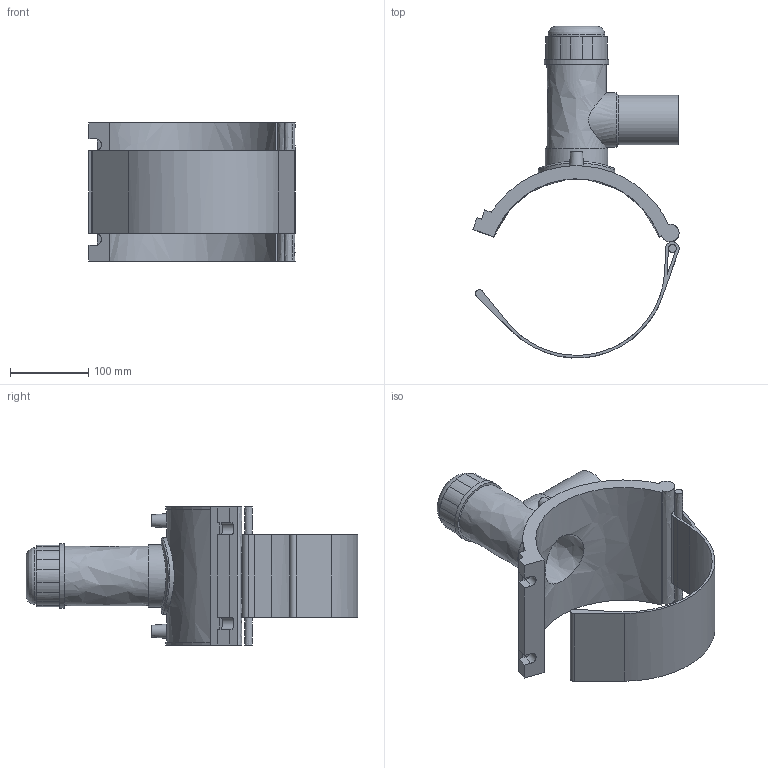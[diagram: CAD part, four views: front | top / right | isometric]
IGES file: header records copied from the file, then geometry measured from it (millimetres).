
Global section: file name: 491304225063; native system: Autodesk Inventor 2019; preprocessor: unknown; author: KIM; date: 20230323.112859; units: millimetre
Bounding box: 262.98 x 423.23 x 176 mm (x, y, z)
Volume: 1512534.9 mm3; surface area: 337173.1 mm2
Topology: 2 solids, 2 shells, 92 faces, 234 edges, 161 vertices
Faces by surface type: bspline 92
